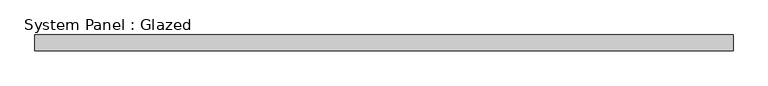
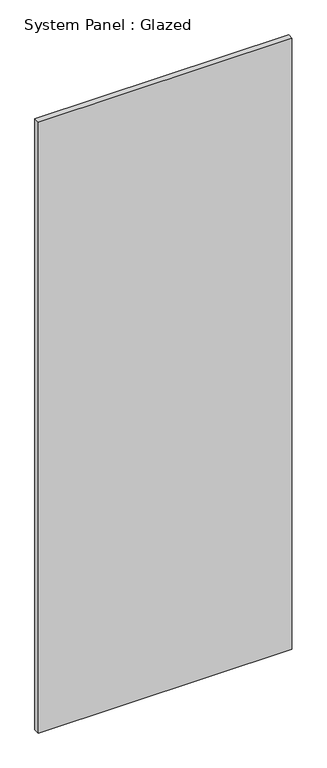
"""IFC4 building model written with IfcOpenShell, lengths in millimetres: plate geometry, System Panel : Glazed."""

from ifc_helpers import new_model, si_unit, origin, origin_with_axes, place, context, project, spatial, polyline, outline, extrude, source, transform, mapped, element, save


def system_panel_glazed_25b155fa(model_context):
    return source(origin(), model_context, "Body", "SweptSolid", [
        extrude(outline(polyline([(549.9999999, -25.0), (-549.9999999, -25.0), (-549.9999999, 0.0), (549.9999999, 0.0), (549.9999999, -25.0)])), origin_with_axes(), (0.0, 0.0, 1.0), 2800.0),
    ])


if __name__ == "__main__":
    model = new_model("IFC4")
    model_context = context("Model", 3, world=origin())
    ifc_project = project(units=[si_unit("LENGTHUNIT", "METRE", prefix="MILLI")], contexts=[model_context])
    site = spatial("IfcSite", under=ifc_project)
    building = spatial("IfcBuilding", under=site)
    placement = place(None, origin())
    system_panel_glazed_shape = system_panel_glazed_25b155fa(model_context)
    element("IfcPlate", 1, ObjectType="System Panel : Glazed", at=placement, inside=building, context=model_context, shape_type="MappedRepresentation", body=[
        mapped(system_panel_glazed_shape, transform((0.0, 0.0, 0.0), x_axis=(1.0, 0.0, 0.0), y_axis=(0.0, 1.0, 0.0), z_axis=(0.0, 0.0, 1.0))),
    ])
    save(model, "model.ifc")
